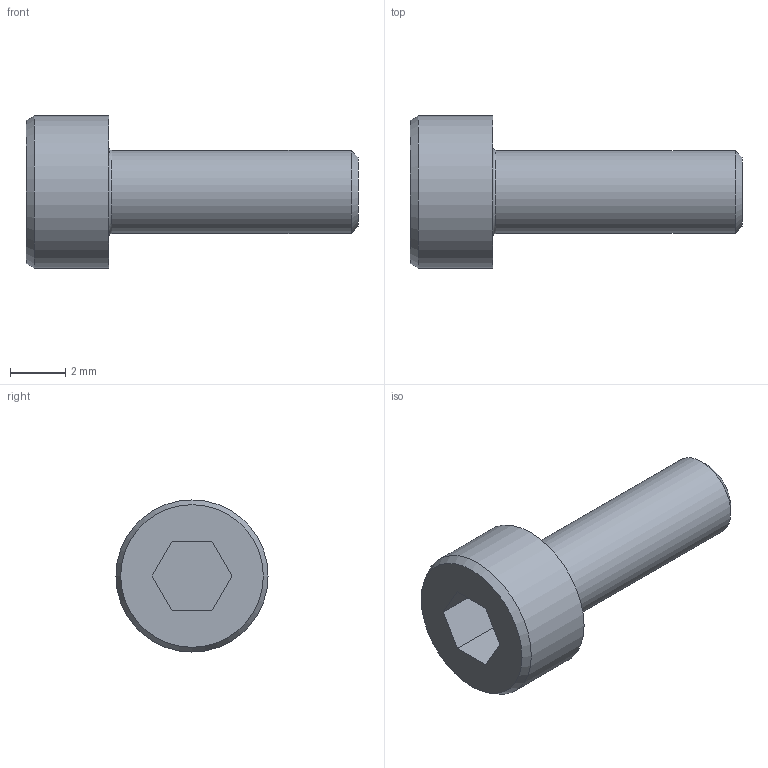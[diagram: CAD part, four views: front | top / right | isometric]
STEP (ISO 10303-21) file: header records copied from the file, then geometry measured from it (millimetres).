
FILE_DESCRIPTION( ( 'STEP AP203' ), '1' );
FILE_NAME( 'C:/CS-03.stp', '2013-10-20T23:43:37', ( ' ' ), ( ' ' ), 'XStep 1.0', ' ', ' ' );
FILE_SCHEMA( ( 'CONFIG_CONTROL_DESIGN' ) );
Length unit declared in the file: metre
Products named in the file (1): 1
Bounding box: 12 x 5.5 x 5.5 mm (x, y, z)
Volume: 124.6 mm3; surface area: 197.7 mm2
Topology: 1 solids, 1 shells, 15 faces, 30 edges, 19 vertices
Faces by surface type: bspline 15
Entity records: 486 total; most frequent: CARTESIAN_POINT 198, ORIENTED_EDGE 50, DIRECTION 30, EDGE_CURVE 25, EDGE_LOOP 22, FACE_OUTER_BOUND 20, VERTEX_POINT 19, ADVANCED_FACE 15
